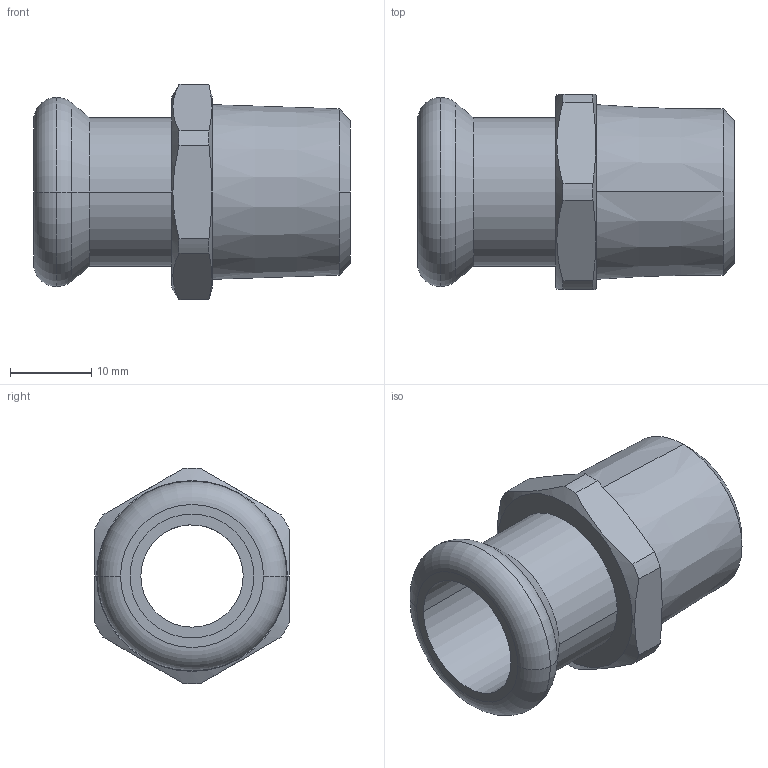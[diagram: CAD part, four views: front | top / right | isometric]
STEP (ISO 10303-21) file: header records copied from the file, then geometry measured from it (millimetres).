
FILE_DESCRIPTION(('CoCreate Modeling STEP Export'),'2;1');
FILE_NAME('C1405 15xR1-2.stp','2014-11-07T14:14:32',(''),(''),'CoCreate Modeling STEP processor for AP214 (Solid Model)','CoCreate Modeling 17.00A 17-Jun-2010 (C) Parametric Technology GmbH','');
FILE_SCHEMA(('AUTOMOTIVE_DESIGN { 1 0 10303 214 1 1 1 1 }'));
Length unit declared in the file: millimetre
Products named in the file (2): C1405_15xR1-2
Assembly tree (1 placements, depth 2):
  C1405_15xR1-2
    C1405_15xR1-2
Bounding box: 39 x 24 x 26.59 mm (x, y, z)
Volume: 6756.6 mm3; surface area: 5126.8 mm2
Topology: 1 solids, 1 shells, 40 faces, 99 edges, 65 vertices
Faces by surface type: cylinder 14, plane 12, cone 10, torus 4
Entity records: 1760 total; most frequent: CARTESIAN_POINT 873, ORIENTED_EDGE 198, DIRECTION 144, EDGE_CURVE 99, VERTEX_POINT 65, AXIS2_PLACEMENT_3D 57, EDGE_LOOP 46, FACE_OUTER_BOUND 40
